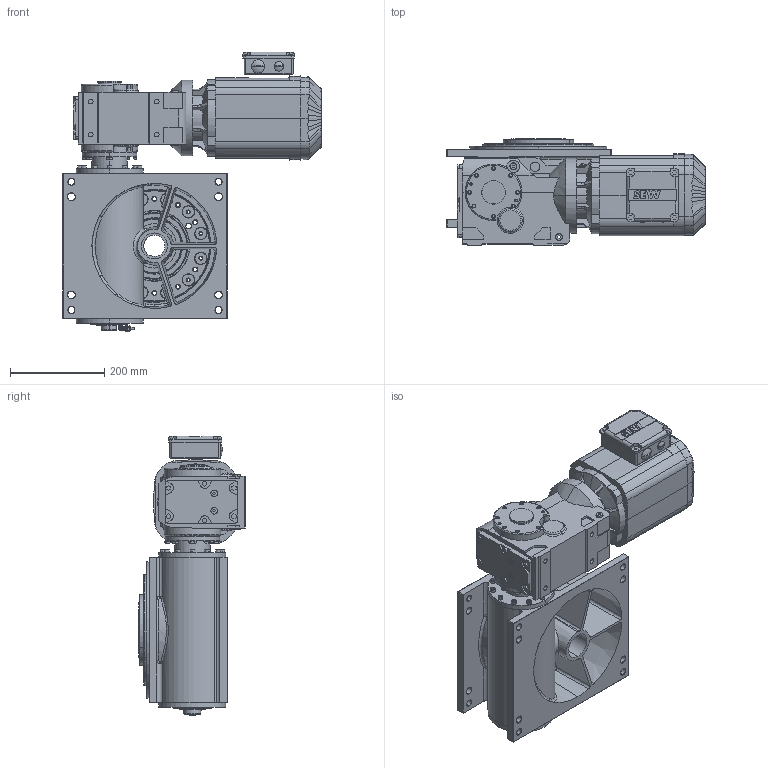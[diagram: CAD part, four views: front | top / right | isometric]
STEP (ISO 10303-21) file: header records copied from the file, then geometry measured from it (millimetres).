
FILE_DESCRIPTION (( 'STEP AP214' ), '1' );
FILE_NAME ('M235_SEW_KA47DRE90L4_D1_12.STEP', '2020-06-17T05:26:25', ( '' ), ( '' ), 'SwSTEP 2.0', 'SolidWorks 2020', '' );
FILE_SCHEMA (( 'AUTOMOTIVE_DESIGN' ));
Length unit declared in the file: millimetre
Products named in the file (1): M235_SEW_KA47DRE90L4_D1_12
Bounding box: 547.5 x 226 x 593.46 mm (x, y, z)
Surface area: 1206280.9 mm2 (no closed solid volume)
Topology: 0 solids, 94 shells, 1711 faces, 5132 edges, 3426 vertices
Faces by surface type: plane 659, cylinder 552, cone 257, bspline 134, torus 89, sphere 20
Entity records: 90269 total; most frequent: CARTESIAN_POINT 26194, DIRECTION 9568, ORIENTED_EDGE 8761, EDGE_CURVE 5094, AXIS2_PLACEMENT_3D 3532, VERTEX_POINT 3426, VECTOR 2504, LINE 2504
